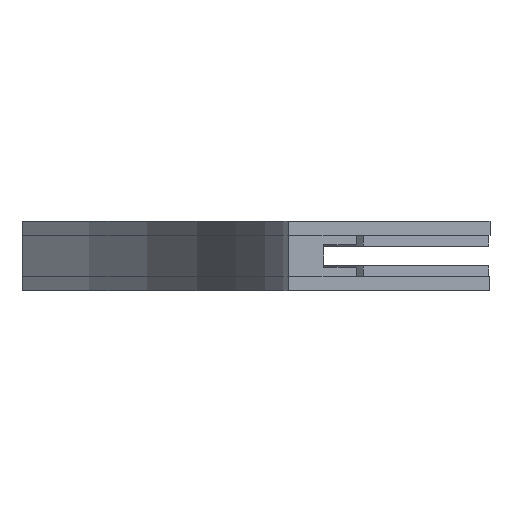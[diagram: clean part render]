
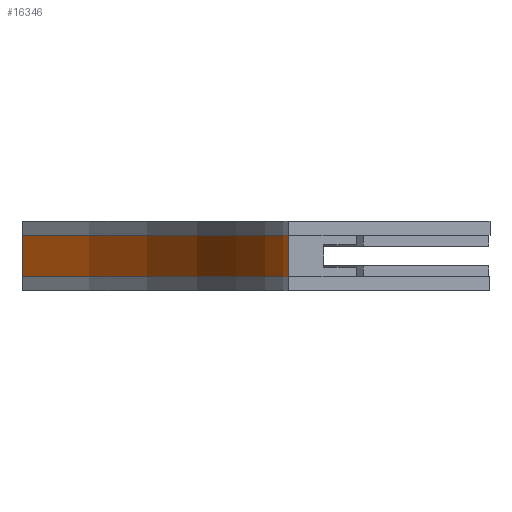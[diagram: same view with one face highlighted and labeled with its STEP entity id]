
A CAD part, left-side view. The second image highlights one B-rep face of the part: STEP entity #16346.
In plain terms, the highlighted cylindrical face has radius 276 mm (diameter 552 mm), a partial arc.
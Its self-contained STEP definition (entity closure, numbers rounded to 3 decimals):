
#199 = CARTESIAN_POINT ( 'NONE',  ( 0., -276., 8.8 ) ) ;
#286 = EDGE_CURVE ( 'Defeatured_0_8+Defeatured_0_1+Defeatured_0_11+Defeatured_0_9', #5513, #13824, #2933, .T. ) ;
#317 = DIRECTION ( 'NONE',  ( 0., 1., 0. ) ) ;
#622 = EDGE_CURVE ( 'Defeatured_0_1+Defeatured_0_20+Defeatured_0_3+Defeatured_0_2', #14599, #3049, #12448, .T. ) ;
#2246 = DIRECTION ( 'NONE',  ( 0., 0., 1. ) ) ;
#2359 = CARTESIAN_POINT ( 'NONE',  ( 223.289, -162.229, 8.8 ) ) ;
#2818 = VECTOR ( 'NONE', #12459, 1000. ) ;
#2908 = DIRECTION ( 'NONE',  ( 0., 1., 0. ) ) ;
#2933 = CIRCLE ( 'NONE', #8934, 276. ) ;
#3024 = DIRECTION ( 'NONE',  ( 0., 0., 1. ) ) ;
#3049 = VERTEX_POINT ( 'NONE', #2359 ) ;
#3246 = LINE ( 'NONE', #9734, #2818 ) ;
#3750 = CARTESIAN_POINT ( 'NONE',  ( 0., -276., -8.8 ) ) ;
#4307 = LINE ( 'NONE', #7967, #12372 ) ;
#4799 = CARTESIAN_POINT ( 'NONE',  ( 223.289, -162.229, -8.8 ) ) ;
#5162 = AXIS2_PLACEMENT_3D ( 'NONE', #13971, #12856, #8704 ) ;
#5513 = VERTEX_POINT ( 'NONE', #3750 ) ;
#6412 = ORIENTED_EDGE ( 'NONE', *, *, #622, .T. ) ;
#7270 = ORIENTED_EDGE ( 'NONE', *, *, #9221, .T. ) ;
#7358 = EDGE_CURVE ( 'Defeatured_0_2+Defeatured_0_1+Defeatured_0_9+Defeatured_0_23', #13824, #3049, #4307, .T. ) ;
#7648 = CYLINDRICAL_SURFACE ( 'NONE', #5162, 276. ) ;
#7967 = CARTESIAN_POINT ( 'NONE',  ( 223.289, -162.229, -8.8 ) ) ;
#8704 = DIRECTION ( 'NONE',  ( 0., -1., 0. ) ) ;
#8887 = CARTESIAN_POINT ( 'NONE',  ( 0., 0., 8.8 ) ) ;
#8934 = AXIS2_PLACEMENT_3D ( 'NONE', #9320, #14525, #317 ) ;
#9221 = EDGE_CURVE ( 'Defeatured_0_1+Defeatured_0_3+Defeatured_0_8+Defeatured_0_20', #5513, #14599, #3246, .T. ) ;
#9320 = CARTESIAN_POINT ( 'NONE',  ( 0., 0., -8.8 ) ) ;
#9734 = CARTESIAN_POINT ( 'NONE',  ( 0., -276., -8.8 ) ) ;
#11093 = AXIS2_PLACEMENT_3D ( 'NONE', #8887, #2246, #2908 ) ;
#11121 = ORIENTED_EDGE ( 'NONE', *, *, #7358, .F. ) ;
#12372 = VECTOR ( 'NONE', #3024, 1000. ) ;
#12448 = CIRCLE ( 'NONE', #11093, 276. ) ;
#12459 = DIRECTION ( 'NONE',  ( 0., 0., 1. ) ) ;
#12856 = DIRECTION ( 'NONE',  ( 0., 0., 1. ) ) ;
#13824 = VERTEX_POINT ( 'NONE', #4799 ) ;
#13971 = CARTESIAN_POINT ( 'NONE',  ( 0., 0., -8.8 ) ) ;
#14320 = ORIENTED_EDGE ( 'NONE', *, *, #286, .F. ) ;
#14525 = DIRECTION ( 'NONE',  ( 0., 0., 1. ) ) ;
#14599 = VERTEX_POINT ( 'NONE', #199 ) ;
#15397 = EDGE_LOOP ( 'NONE', ( #6412, #11121, #14320, #7270 ) ) ;
#16346 = ADVANCED_FACE ( 'Defeatured_0_1', ( #16622 ), #7648, .F. ) ;
#16622 = FACE_OUTER_BOUND ( 'NONE', #15397, .T. ) ;
